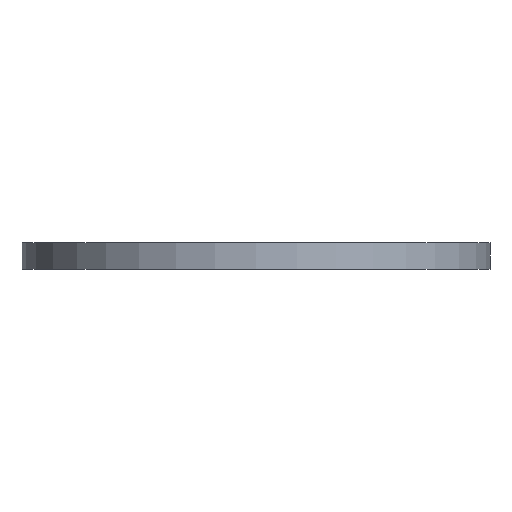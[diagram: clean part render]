
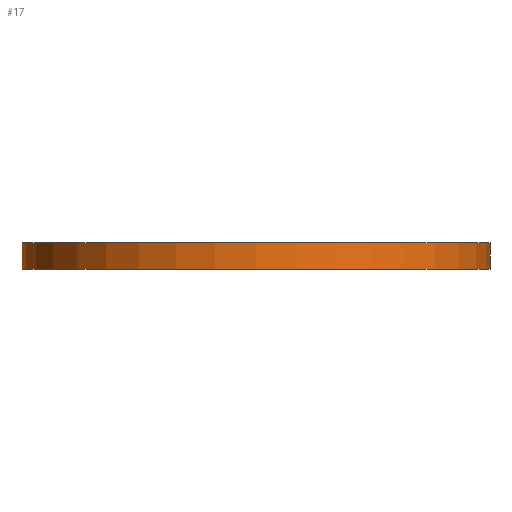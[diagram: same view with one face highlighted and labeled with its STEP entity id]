
A CAD part, front view. The second image highlights one B-rep face of the part: STEP entity #17.
In plain terms, the highlighted cylindrical face has radius 26.5 mm (diameter 53 mm), a full revolution.
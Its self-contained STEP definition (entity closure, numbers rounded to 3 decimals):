
#17 = ADVANCED_FACE('',(#18),#32,.T.);
#18 = FACE_BOUND('',#19,.F.);
#19 = EDGE_LOOP('',(#20,#50,#77,#78));
#20 = ORIENTED_EDGE('',*,*,#21,.T.);
#21 = EDGE_CURVE('',#22,#24,#26,.T.);
#22 = VERTEX_POINT('',#23);
#23 = CARTESIAN_POINT('',(26.5,0.,179.));
#24 = VERTEX_POINT('',#25);
#25 = CARTESIAN_POINT('',(26.5,0.,182.));
#26 = SEAM_CURVE('',#27,(#31,#43),.PCURVE_S1.);
#27 = LINE('',#28,#29);
#28 = CARTESIAN_POINT('',(26.5,0.,179.));
#29 = VECTOR('',#30,1.);
#30 = DIRECTION('',(0.,0.,1.));
#31 = PCURVE('',#32,#37);
#32 = CYLINDRICAL_SURFACE('',#33,26.5);
#33 = AXIS2_PLACEMENT_3D('',#34,#35,#36);
#34 = CARTESIAN_POINT('',(0.,0.,179.));
#35 = DIRECTION('',(-0.,-0.,-1.));
#36 = DIRECTION('',(1.,0.,0.));
#37 = DEFINITIONAL_REPRESENTATION('',(#38),#42);
#38 = LINE('',#39,#40);
#39 = CARTESIAN_POINT('',(-0.,0.));
#40 = VECTOR('',#41,1.);
#41 = DIRECTION('',(-0.,-1.));
#42 = ( GEOMETRIC_REPRESENTATION_CONTEXT(2) 
PARAMETRIC_REPRESENTATION_CONTEXT() REPRESENTATION_CONTEXT('2D SPACE',''
  ) );
#43 = PCURVE('',#32,#44);
#44 = DEFINITIONAL_REPRESENTATION('',(#45),#49);
#45 = LINE('',#46,#47);
#46 = CARTESIAN_POINT('',(-6.283,0.));
#47 = VECTOR('',#48,1.);
#48 = DIRECTION('',(-0.,-1.));
#49 = ( GEOMETRIC_REPRESENTATION_CONTEXT(2) 
PARAMETRIC_REPRESENTATION_CONTEXT() REPRESENTATION_CONTEXT('2D SPACE',''
  ) );
#50 = ORIENTED_EDGE('',*,*,#51,.T.);
#51 = EDGE_CURVE('',#24,#24,#52,.T.);
#52 = SURFACE_CURVE('',#53,(#58,#65),.PCURVE_S1.);
#53 = CIRCLE('',#54,26.5);
#54 = AXIS2_PLACEMENT_3D('',#55,#56,#57);
#55 = CARTESIAN_POINT('',(0.,0.,182.));
#56 = DIRECTION('',(0.,0.,1.));
#57 = DIRECTION('',(1.,0.,0.));
#58 = PCURVE('',#32,#59);
#59 = DEFINITIONAL_REPRESENTATION('',(#60),#64);
#60 = LINE('',#61,#62);
#61 = CARTESIAN_POINT('',(-0.,-3.));
#62 = VECTOR('',#63,1.);
#63 = DIRECTION('',(-1.,0.));
#64 = ( GEOMETRIC_REPRESENTATION_CONTEXT(2) 
PARAMETRIC_REPRESENTATION_CONTEXT() REPRESENTATION_CONTEXT('2D SPACE',''
  ) );
#65 = PCURVE('',#66,#71);
#66 = PLANE('',#67);
#67 = AXIS2_PLACEMENT_3D('',#68,#69,#70);
#68 = CARTESIAN_POINT('',(0.,0.,182.)
  );
#69 = DIRECTION('',(0.,0.,1.));
#70 = DIRECTION('',(1.,0.,-0.));
#71 = DEFINITIONAL_REPRESENTATION('',(#72),#76);
#72 = CIRCLE('',#73,26.5);
#73 = AXIS2_PLACEMENT_2D('',#74,#75);
#74 = CARTESIAN_POINT('',(0.,0.));
#75 = DIRECTION('',(1.,0.));
#76 = ( GEOMETRIC_REPRESENTATION_CONTEXT(2) 
PARAMETRIC_REPRESENTATION_CONTEXT() REPRESENTATION_CONTEXT('2D SPACE',''
  ) );
#77 = ORIENTED_EDGE('',*,*,#21,.F.);
#78 = ORIENTED_EDGE('',*,*,#79,.F.);
#79 = EDGE_CURVE('',#22,#22,#80,.T.);
#80 = SURFACE_CURVE('',#81,(#86,#93),.PCURVE_S1.);
#81 = CIRCLE('',#82,26.5);
#82 = AXIS2_PLACEMENT_3D('',#83,#84,#85);
#83 = CARTESIAN_POINT('',(0.,0.,179.));
#84 = DIRECTION('',(0.,0.,1.));
#85 = DIRECTION('',(1.,0.,0.));
#86 = PCURVE('',#32,#87);
#87 = DEFINITIONAL_REPRESENTATION('',(#88),#92);
#88 = LINE('',#89,#90);
#89 = CARTESIAN_POINT('',(-0.,0.));
#90 = VECTOR('',#91,1.);
#91 = DIRECTION('',(-1.,0.));
#92 = ( GEOMETRIC_REPRESENTATION_CONTEXT(2) 
PARAMETRIC_REPRESENTATION_CONTEXT() REPRESENTATION_CONTEXT('2D SPACE',''
  ) );
#93 = PCURVE('',#94,#99);
#94 = PLANE('',#95);
#95 = AXIS2_PLACEMENT_3D('',#96,#97,#98);
#96 = CARTESIAN_POINT('',(0.,0.,179.)
  );
#97 = DIRECTION('',(0.,0.,1.));
#98 = DIRECTION('',(1.,0.,-0.));
#99 = DEFINITIONAL_REPRESENTATION('',(#100),#104);
#100 = CIRCLE('',#101,26.5);
#101 = AXIS2_PLACEMENT_2D('',#102,#103);
#102 = CARTESIAN_POINT('',(0.,0.));
#103 = DIRECTION('',(1.,0.));
#104 = ( GEOMETRIC_REPRESENTATION_CONTEXT(2) 
PARAMETRIC_REPRESENTATION_CONTEXT() REPRESENTATION_CONTEXT('2D SPACE',''
  ) );
